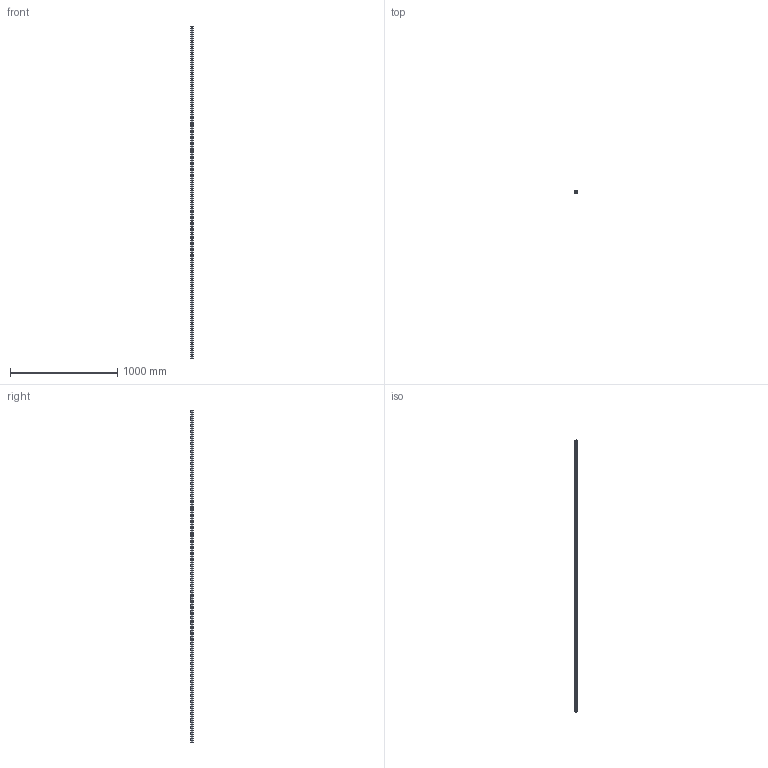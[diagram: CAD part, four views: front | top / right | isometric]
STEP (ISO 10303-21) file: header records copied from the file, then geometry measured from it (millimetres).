
FILE_DESCRIPTION (( 'STEP AP203' ), '1' );
FILE_NAME ('L1016.BL25-3100.step', '2019-06-12T12:13:51', ( '' ), ( '' ), 'SwSTEP 2.0', 'SolidWorks 2017', '' );
FILE_SCHEMA (( 'CONFIG_CONTROL_DESIGN' ));
Length unit declared in the file: millimetre
Products named in the file (1): L1016.BL25-3100
Bounding box: 23 x 19.2 x 3100 mm (x, y, z)
Volume: 1142410.8 mm3; surface area: 293266.7 mm2
Topology: 1 solids, 1 shells, 286 faces, 696 edges, 464 vertices
Faces by surface type: cylinder 212, plane 74
Entity records: 8909 total; most frequent: DIRECTION 1694, CARTESIAN_POINT 1447, ORIENTED_EDGE 1392, AXIS2_PLACEMENT_3D 711, EDGE_CURVE 696, VERTEX_POINT 464, EDGE_LOOP 442, CIRCLE 424
